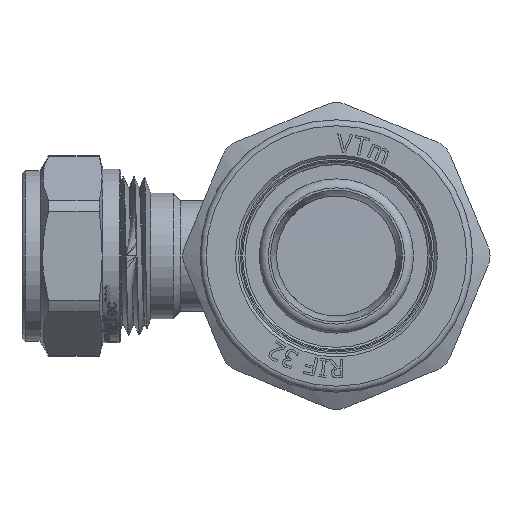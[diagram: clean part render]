
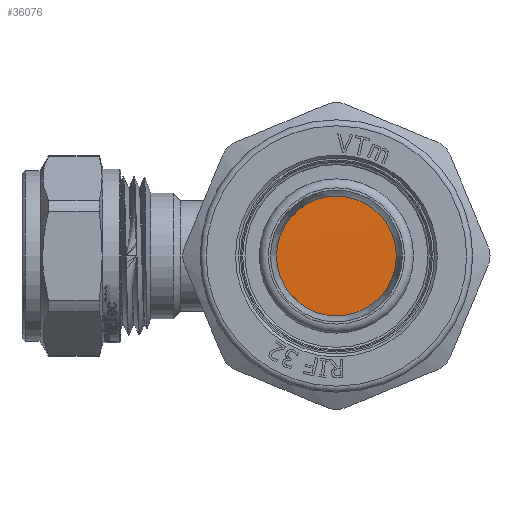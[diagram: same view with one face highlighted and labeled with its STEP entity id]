
A CAD part, left-side view. The second image highlights one B-rep face of the part: STEP entity #36076.
In plain terms, the highlighted cylindrical face has radius 21 mm (diameter 42 mm), a full revolution.
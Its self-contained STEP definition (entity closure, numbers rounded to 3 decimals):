
#2026=FACE_OUTER_BOUND('',#4069,.T.);
#4069=EDGE_LOOP('',(#24253,#24254,#24255));
#7151=B_SPLINE_CURVE_WITH_KNOTS('',3,(#46485,#46486,#46487,#46488,#46489,
#46490,#46491,#46492,#46493,#46494,#46495,#46496,#46497,#46498,#46499,#46500,
#46501),.UNSPECIFIED.,.F.,.F.,(4,1,1,1,1,1,1,1,1,1,1,1,1,1,4),(37.699,
37.812,38.309,38.807,39.304,39.801,
40.298,40.795,41.292,41.789,42.286,
42.783,43.28,43.777,43.982),
 .UNSPECIFIED.);
#9565=LINE('',#46062,#12027);
#9576=LINE('',#46484,#12038);
#12027=VECTOR('',#39940,21.);
#12038=VECTOR('',#39977,21.);
#14493=VERTEX_POINT('',#46060);
#14494=VERTEX_POINT('',#46061);
#14518=VERTEX_POINT('',#46483);
#18409=EDGE_CURVE('',#14493,#14494,#9565,.T.);
#18443=EDGE_CURVE('',#14518,#14494,#9576,.T.);
#18444=EDGE_CURVE('',#14518,#14493,#7151,.T.);
#24253=ORIENTED_EDGE('',*,*,#18409,.T.);
#24254=ORIENTED_EDGE('',*,*,#18443,.F.);
#24255=ORIENTED_EDGE('',*,*,#18444,.T.);
#35816=CYLINDRICAL_SURFACE('',#38144,21.);
#36076=ADVANCED_FACE('',(#2026),#35816,.T.);
#38144=AXIS2_PLACEMENT_3D('',#46482,#39975,#39976);
#39940=DIRECTION('',(-1.,0.,0.));
#39975=DIRECTION('center_axis',(-1.,0.,0.));
#39976=DIRECTION('ref_axis',(0.,-1.,0.));
#39977=DIRECTION('',(1.,0.,0.));
#46060=CARTESIAN_POINT('',(-25.5,21.,0.));
#46061=CARTESIAN_POINT('',(-26.9,21.,0.));
#46062=CARTESIAN_POINT('',(-29.626,21.,0.));
#46482=CARTESIAN_POINT('Origin',(-29.626,0.,
0.));
#46483=CARTESIAN_POINT('',(-27.,21.,0.));
#46484=CARTESIAN_POINT('',(-29.626,21.,0.));
#46485=CARTESIAN_POINT('Ctrl Pts',(-27.,21.,0.001));
#46486=CARTESIAN_POINT('Ctrl Pts',(-26.991,21.001,0.794));
#46487=CARTESIAN_POINT('Ctrl Pts',(-26.942,20.763,5.065));
#46488=CARTESIAN_POINT('Ctrl Pts',(-26.854,17.933,12.543));
#46489=CARTESIAN_POINT('Ctrl Pts',(-26.736,9.782,19.577));
#46490=CARTESIAN_POINT('Ctrl Pts',(-26.617,-0.737,
21.872));
#46491=CARTESIAN_POINT('Ctrl Pts',(-26.498,-11.077,
18.874));
#46492=CARTESIAN_POINT('Ctrl Pts',(-26.38,-18.737,
11.308));
#46493=CARTESIAN_POINT('Ctrl Pts',(-26.261,-21.861,
1.005));
#46494=CARTESIAN_POINT('Ctrl Pts',(-26.142,-19.695,-9.541));
#46495=CARTESIAN_POINT('Ctrl Pts',(-26.024,-12.762,
-17.778));
#46496=CARTESIAN_POINT('Ctrl Pts',(-25.905,-2.74,-21.712));
#46497=CARTESIAN_POINT('Ctrl Pts',(-25.786,7.945,-20.392));
#46498=CARTESIAN_POINT('Ctrl Pts',(-25.668,16.707,-14.136));
#46499=CARTESIAN_POINT('Ctrl Pts',(-25.572,20.502,-6.353));
#46500=CARTESIAN_POINT('Ctrl Pts',(-25.516,20.999,-1.437));
#46501=CARTESIAN_POINT('Ctrl Pts',(-25.5,20.998,0.));
